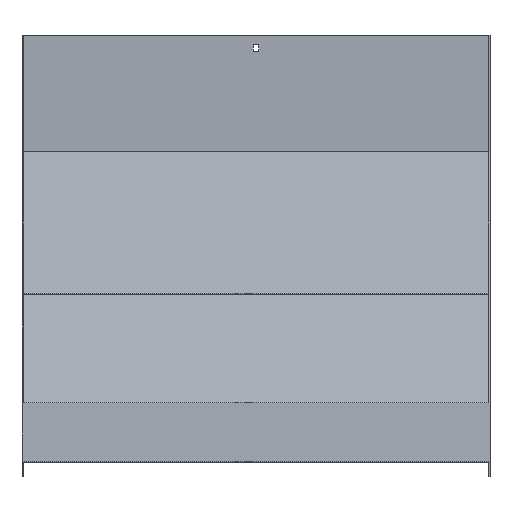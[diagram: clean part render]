
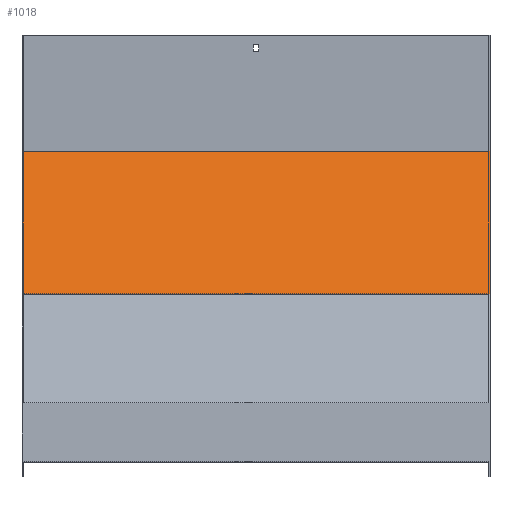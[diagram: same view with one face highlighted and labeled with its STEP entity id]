
A CAD part, top view. The second image highlights one B-rep face of the part: STEP entity #1018.
In plain terms, the highlighted planar face has unit normal (0, 0.383, 0.924).
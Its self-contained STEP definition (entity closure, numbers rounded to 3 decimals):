
#14 = DIRECTION ( 'NONE',  ( 0., 0.383, 0.924 ) ) ;
#37 = EDGE_CURVE ( 'NONE', #318, #619, #77, .T. ) ;
#61 = FACE_OUTER_BOUND ( 'NONE', #158, .T. ) ;
#64 = DIRECTION ( 'NONE',  ( 0., 0.924, -0.383 ) ) ;
#77 = LINE ( 'NONE', #401, #819 ) ;
#109 = CARTESIAN_POINT ( 'NONE',  ( 301.5, 400.116, -549.916 ) ) ;
#132 = ORIENTED_EDGE ( 'NONE', *, *, #37, .F. ) ;
#158 = EDGE_LOOP ( 'NONE', ( #132, #536, #451, #1073 ) ) ;
#159 = CARTESIAN_POINT ( 'NONE',  ( 301.5, 400.116, -549.916 ) ) ;
#178 = CARTESIAN_POINT ( 'NONE',  ( -301.5, 216.541, -473.877 ) ) ;
#179 = VECTOR ( 'NONE', #942, 1000. ) ;
#211 = VERTEX_POINT ( 'NONE', #1003 ) ;
#221 = EDGE_CURVE ( 'NONE', #211, #318, #569, .T. ) ;
#298 = LINE ( 'NONE', #1065, #1062 ) ;
#318 = VERTEX_POINT ( 'NONE', #178 ) ;
#391 = CARTESIAN_POINT ( 'NONE',  ( 301.5, 216.541, -473.877 ) ) ;
#401 = CARTESIAN_POINT ( 'NONE',  ( -301.5, 216.541, -473.877 ) ) ;
#406 = DIRECTION ( 'NONE',  ( 0., 0.924, -0.383 ) ) ;
#451 = ORIENTED_EDGE ( 'NONE', *, *, #1066, .T. ) ;
#502 = VECTOR ( 'NONE', #755, 1000. ) ;
#536 = ORIENTED_EDGE ( 'NONE', *, *, #221, .F. ) ;
#569 = LINE ( 'NONE', #995, #502 ) ;
#619 = VERTEX_POINT ( 'NONE', #713 ) ;
#707 = AXIS2_PLACEMENT_3D ( 'NONE', #391, #14, #747 ) ;
#713 = CARTESIAN_POINT ( 'NONE',  ( -301.5, 400.116, -549.916 ) ) ;
#747 = DIRECTION ( 'NONE',  ( 0., -0.924, 0.383 ) ) ;
#755 = DIRECTION ( 'NONE',  ( -1., 0., 0. ) ) ;
#795 = PLANE ( 'NONE',  #707 ) ;
#819 = VECTOR ( 'NONE', #406, 1000. ) ;
#856 = VERTEX_POINT ( 'NONE', #109 ) ;
#938 = LINE ( 'NONE', #159, #179 ) ;
#942 = DIRECTION ( 'NONE',  ( -1., 0., 0. ) ) ;
#995 = CARTESIAN_POINT ( 'NONE',  ( 301.5, 216.541, -473.877 ) ) ;
#1003 = CARTESIAN_POINT ( 'NONE',  ( 301.5, 216.541, -473.877 ) ) ;
#1018 = ADVANCED_FACE ( 'NONE', ( #61 ), #795, .T. ) ;
#1050 = EDGE_CURVE ( 'NONE', #856, #619, #938, .T. ) ;
#1062 = VECTOR ( 'NONE', #64, 1000. ) ;
#1065 = CARTESIAN_POINT ( 'NONE',  ( 301.5, 216.541, -473.877 ) ) ;
#1066 = EDGE_CURVE ( 'NONE', #211, #856, #298, .T. ) ;
#1073 = ORIENTED_EDGE ( 'NONE', *, *, #1050, .T. ) ;
